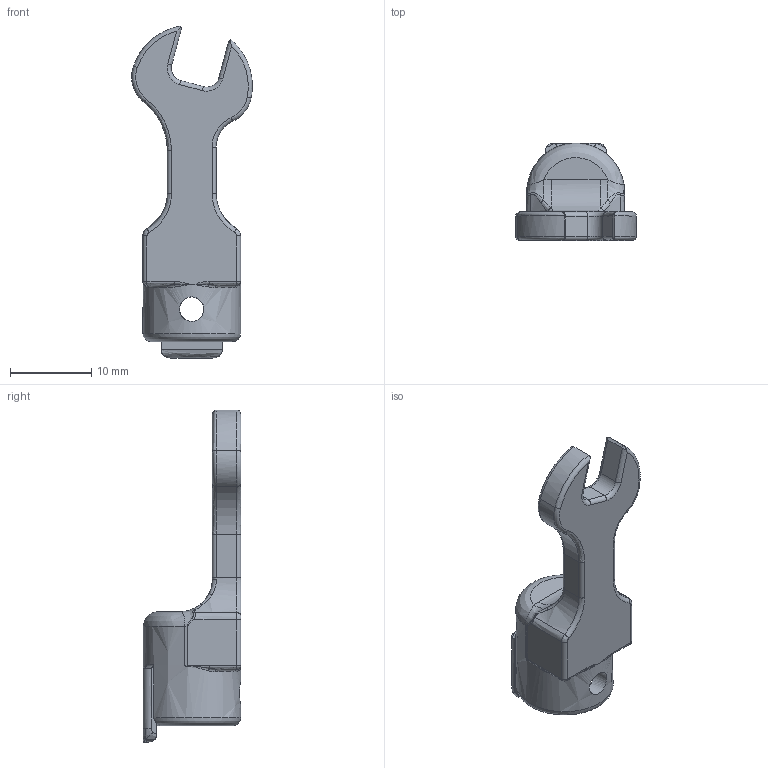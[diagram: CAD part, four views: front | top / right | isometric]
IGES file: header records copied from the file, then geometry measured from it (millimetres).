
Global section: file name: SH8DX6; native system: Autodesk Inventor 2016; preprocessor: unknown; author: Q600; date: 20151029.194249; units: millimetre
Bounding box: 14.82 x 12 x 40.77 mm (x, y, z)
Volume: 1816.9 mm3; surface area: 1642.4 mm2
Topology: 1 solids, 1 shells, 140 faces, 353 edges, 206 vertices
Faces by surface type: bspline 140
